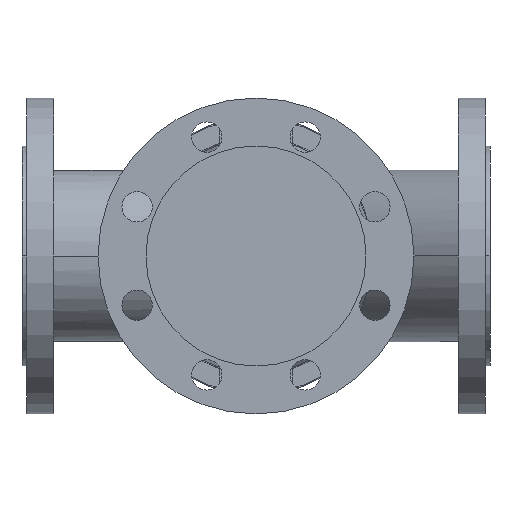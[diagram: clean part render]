
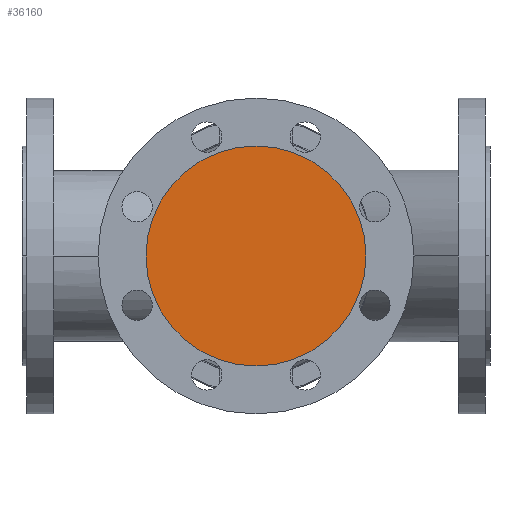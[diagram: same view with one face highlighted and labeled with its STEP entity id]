
A CAD part, front view. The second image highlights one B-rep face of the part: STEP entity #36160.
In plain terms, the highlighted planar face has unit normal (0, -1, 0).
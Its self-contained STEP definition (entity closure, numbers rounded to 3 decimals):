
#6670=CARTESIAN_POINT('',(294.,-200.,0.));
#6680=VERTEX_POINT('',#6670);
#6710=CARTESIAN_POINT('',(200.,-200.,0.));
#6720=DIRECTION('',(0.,1.,0.));
#6730=DIRECTION('',(1.,0.,0.));
#6740=AXIS2_PLACEMENT_3D('',#6710,#6720,#6730);
#6750=CIRCLE('',#6740,94.);
#6760=CARTESIAN_POINT('',(106.,-200.,0.));
#6770=VERTEX_POINT('',#6760);
#6780=EDGE_CURVE('',#6770,#6680,#6750,.T.);
#36060=CARTESIAN_POINT('',(247.,-200.,0.));
#36070=DIRECTION('',(0.,-1.,0.));
#36080=DIRECTION('',(-1.,0.,0.));
#36090=AXIS2_PLACEMENT_3D('',#36060,#36070,#36080);
#36100=PLANE('',#36090);
#36110=EDGE_CURVE('',#6680,#6770,#6750,.T.);
#36120=ORIENTED_EDGE('',*,*,#36110,.F.);
#36130=ORIENTED_EDGE('',*,*,#6780,.F.);
#36140=EDGE_LOOP('',(#36130,#36120));
#36150=FACE_OUTER_BOUND('',#36140,.T.);
#36160=ADVANCED_FACE('',(#36150),#36100,.T.);
